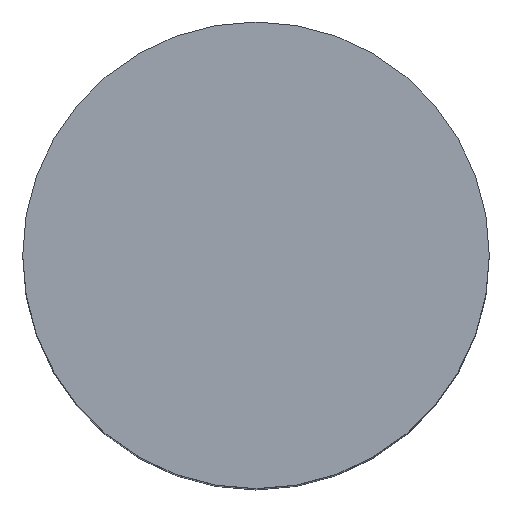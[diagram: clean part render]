
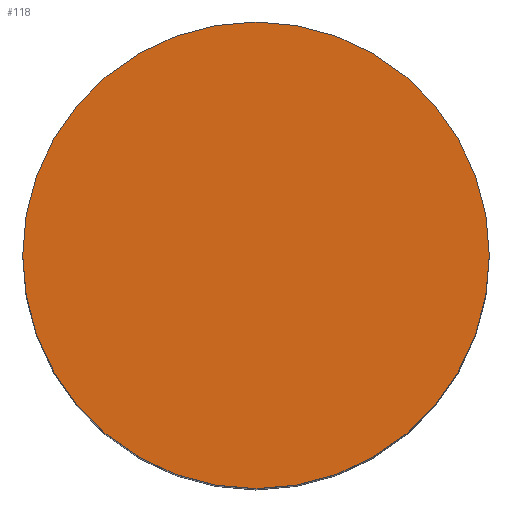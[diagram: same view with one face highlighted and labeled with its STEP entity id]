
A CAD part, top view. The second image highlights one B-rep face of the part: STEP entity #118.
In plain terms, the highlighted planar face has unit normal (0, 0, 1).
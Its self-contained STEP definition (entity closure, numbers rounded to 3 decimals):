
#118=ADVANCED_FACE('',(#128),#120,.T.);
#120=PLANE('',#215);
#128=FACE_OUTER_BOUND('',#136,.T.);
#136=EDGE_LOOP('',(#163,#164));
#163=ORIENTED_EDGE('',*,*,#186,.T.);
#164=ORIENTED_EDGE('',*,*,#184,.T.);
#171=VERTEX_POINT('',#281);
#172=VERTEX_POINT('',#283);
#184=EDGE_CURVE('',#172,#171,#195,.T.);
#186=EDGE_CURVE('',#171,#172,#196,.T.);
#195=CIRCLE('',#211,25.);
#196=CIRCLE('',#213,25.);
#211=AXIS2_PLACEMENT_3D('',#282,#247,#248);
#213=AXIS2_PLACEMENT_3D('',#286,#252,#253);
#215=AXIS2_PLACEMENT_3D('',#288,#256,#257);
#247=DIRECTION('',(0.,0.,1.));
#248=DIRECTION('',(0.,-1.,0.));
#252=DIRECTION('',(0.,0.,1.));
#253=DIRECTION('',(0.,1.,0.));
#256=DIRECTION('',(0.,0.,1.));
#257=DIRECTION('',(0.,1.,0.));
#281=CARTESIAN_POINT('',(-25.,0.,82.));
#282=CARTESIAN_POINT('',(0.,0.,82.));
#283=CARTESIAN_POINT('',(25.,0.,82.));
#286=CARTESIAN_POINT('',(0.,0.,82.));
#288=CARTESIAN_POINT('',(0.,0.,82.));
